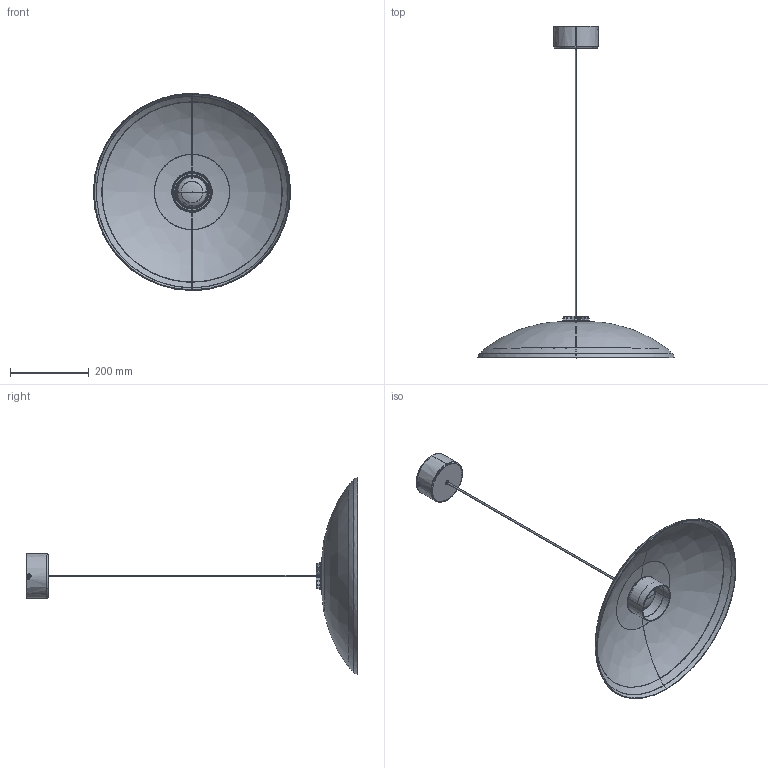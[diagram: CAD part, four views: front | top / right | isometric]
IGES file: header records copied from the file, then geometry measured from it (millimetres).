
Start section: SolidWorks IGES file using analytic representation for surfaces
Global section: file name: C:\SANTACOLE_PDM\Proyectos Catálogo\PROD-P13-003 -- CÁPSULA HEAD LED\6_Técnico comercial\3D\Plate\HeadHat Plate M.IGS; native system: SolidWorks 2019; preprocessor: SolidWorks 2019; author: aina.morell; date: 200406.173003; units: millimetre
Bounding box: 500 x 841.64 x 500 mm (x, y, z)
Surface area: 628686 mm2 (no closed solid volume)
Topology: 0 solids, 0 shells, 1796 faces, 20544 edges, 20529 vertices
Faces by surface type: bspline 1513, revolution 283
